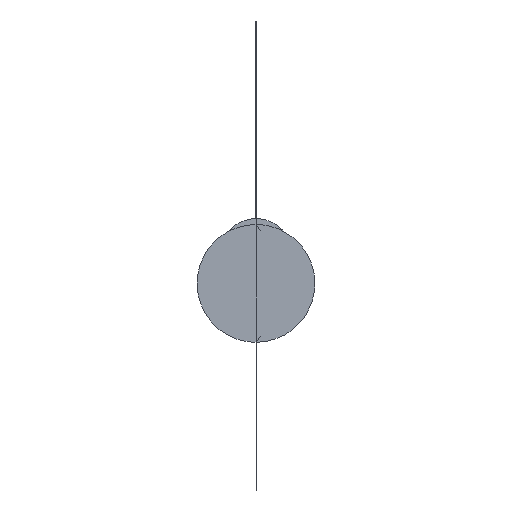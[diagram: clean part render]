
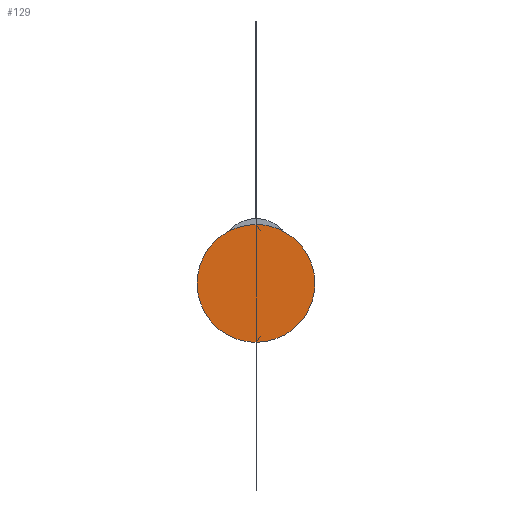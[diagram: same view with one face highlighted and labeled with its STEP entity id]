
A CAD part, top view. The second image highlights one B-rep face of the part: STEP entity #129.
In plain terms, the highlighted planar face has unit normal (0, 0, 1).
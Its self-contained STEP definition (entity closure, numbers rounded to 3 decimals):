
#26=PLANE('',#840);
#129=ADVANCED_FACE('',(#163),#26,.T.);
#163=FACE_OUTER_BOUND('',#197,.T.);
#197=EDGE_LOOP('',(#322,#323));
#322=ORIENTED_EDGE('',*,*,#450,.T.);
#323=ORIENTED_EDGE('',*,*,#451,.T.);
#450=EDGE_CURVE('',#578,#579,#717,.T.);
#451=EDGE_CURVE('',#579,#578,#718,.T.);
#578=VERTEX_POINT('',#1961);
#579=VERTEX_POINT('',#1962);
#717=(
BOUNDED_CURVE()
B_SPLINE_CURVE(2,(#1963,#1964,#1965,#1966,#1967),.UNSPECIFIED.,.F.,.F.)
B_SPLINE_CURVE_WITH_KNOTS((3,2,3),(-17.047,-12.785,
-8.523),.UNSPECIFIED.)
CURVE()
GEOMETRIC_REPRESENTATION_ITEM()
RATIONAL_B_SPLINE_CURVE((1.,0.707,1.,0.707,
1.))
REPRESENTATION_ITEM('')
);
#718=(
BOUNDED_CURVE()
B_SPLINE_CURVE(2,(#1968,#1969,#1970,#1971,#1972),.UNSPECIFIED.,.F.,.F.)
B_SPLINE_CURVE_WITH_KNOTS((3,2,3),(-8.523,-4.262,0.),
 .UNSPECIFIED.)
CURVE()
GEOMETRIC_REPRESENTATION_ITEM()
RATIONAL_B_SPLINE_CURVE((1.,0.707,1.,0.707,
1.))
REPRESENTATION_ITEM('')
);
#840=AXIS2_PLACEMENT_3D('',#1960,#863,$);
#863=DIRECTION('',(0.,0.,1.));
#1960=CARTESIAN_POINT('',(-79.102,11.114,601.608));
#1961=CARTESIAN_POINT('',(0.,156.035,601.608));
#1962=CARTESIAN_POINT('',(0.,24.398,601.608));
#1963=CARTESIAN_POINT('',(0.,156.035,601.608));
#1964=CARTESIAN_POINT('',(-65.819,156.035,601.608));
#1965=CARTESIAN_POINT('',(-65.819,90.217,601.608));
#1966=CARTESIAN_POINT('',(-65.819,24.398,601.608));
#1967=CARTESIAN_POINT('',(0.,24.398,601.608));
#1968=CARTESIAN_POINT('',(0.,24.398,601.608));
#1969=CARTESIAN_POINT('',(65.819,24.398,601.608));
#1970=CARTESIAN_POINT('',(65.819,90.217,601.608));
#1971=CARTESIAN_POINT('',(65.819,156.035,601.608));
#1972=CARTESIAN_POINT('',(0.,156.035,601.608));
